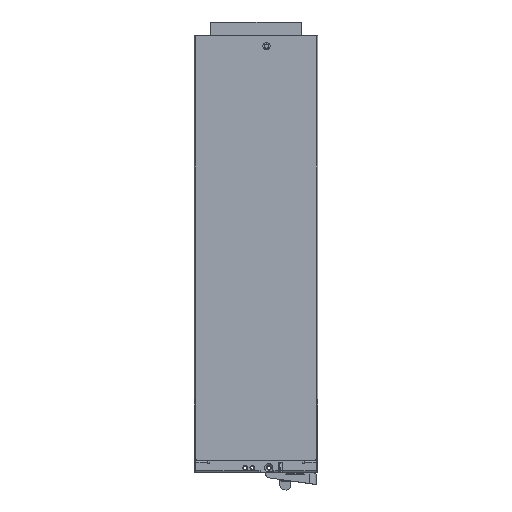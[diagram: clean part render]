
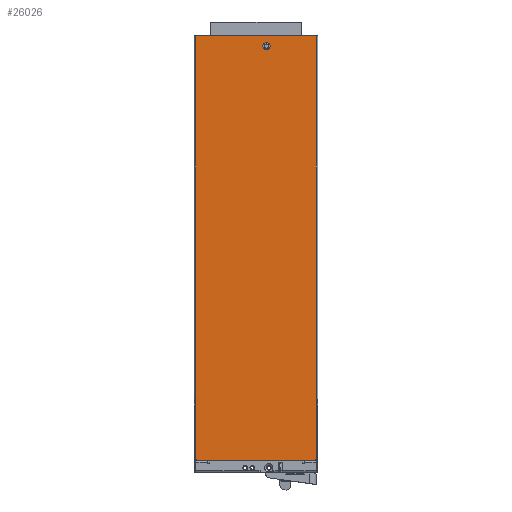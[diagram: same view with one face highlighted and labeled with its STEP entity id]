
A CAD part, top view. The second image highlights one B-rep face of the part: STEP entity #26026.
In plain terms, the highlighted planar face has unit normal (0, 0, 1).
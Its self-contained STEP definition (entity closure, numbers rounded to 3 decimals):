
#10978=DIRECTION('',(0.,-1.,0.));
#10979=VECTOR('',#10978,249.8);
#10980=CARTESIAN_POINT('',(108.187,347.252,41.8));
#10981=LINE('',#10980,#10979);
#10982=DIRECTION('',(0.,-1.,0.));
#10983=VECTOR('',#10982,41.1);
#10984=CARTESIAN_POINT('',(25.437,97.452,41.8));
#10985=LINE('',#10984,#10983);
#10986=DIRECTION('',(1.,0.,0.));
#10987=VECTOR('',#10986,0.05);
#10988=CARTESIAN_POINT('',(25.387,97.452,41.8));
#10989=LINE('',#10988,#10987);
#10990=DIRECTION('',(-1.,0.,0.));
#10991=VECTOR('',#10990,82.8);
#10992=CARTESIAN_POINT('',(108.187,347.252,41.8));
#10993=LINE('',#10992,#10991);
#10994=DIRECTION('',(1.,0.,0.));
#10995=VECTOR('',#10994,0.05);
#10996=CARTESIAN_POINT('',(108.137,97.452,41.8));
#10997=LINE('',#10996,#10995);
#10998=DIRECTION('',(0.,1.,0.));
#10999=VECTOR('',#10998,41.1);
#11000=CARTESIAN_POINT('',(108.137,56.352,41.8));
#11001=LINE('',#11000,#10999);
#11002=CARTESIAN_POINT('',(107.137,56.352,41.8));
#11003=DIRECTION('',(0.,0.,1.));
#11004=DIRECTION('',(0.,-1.,0.));
#11005=AXIS2_PLACEMENT_3D('',#11002,#11003,#11004);
#11007=DIRECTION('',(1.,0.,0.));
#11008=VECTOR('',#11007,80.7);
#11009=CARTESIAN_POINT('',(26.437,55.352,41.8));
#11010=LINE('',#11009,#11008);
#11011=CARTESIAN_POINT('',(26.437,56.352,41.8));
#11012=DIRECTION('',(0.,0.,1.));
#11013=DIRECTION('',(-1.,0.,0.));
#11014=AXIS2_PLACEMENT_3D('',#11011,#11012,#11013);
#11016=CARTESIAN_POINT('',(74.037,340.189,41.8));
#11017=DIRECTION('',(0.,0.,-1.));
#11018=DIRECTION('',(-1.,0.,0.));
#11019=AXIS2_PLACEMENT_3D('',#11016,#11017,#11018);
#11021=CARTESIAN_POINT('',(74.037,340.189,41.8));
#11022=DIRECTION('',(0.,0.,-1.));
#11023=DIRECTION('',(1.,0.,0.));
#11024=AXIS2_PLACEMENT_3D('',#11021,#11022,#11023);
#11099=DIRECTION('',(0.,1.,0.));
#11100=VECTOR('',#11099,249.8);
#11101=CARTESIAN_POINT('',(25.387,97.452,41.8));
#11102=LINE('',#11101,#11100);
#24032=CARTESIAN_POINT('',(108.137,97.452,41.8));
#24033=VERTEX_POINT('',#24032);
#24034=CARTESIAN_POINT('',(108.137,56.352,41.8));
#24035=VERTEX_POINT('',#24034);
#24036=CARTESIAN_POINT('',(107.137,55.352,41.8));
#24037=VERTEX_POINT('',#24036);
#24038=CARTESIAN_POINT('',(26.437,55.352,41.8));
#24039=VERTEX_POINT('',#24038);
#24040=CARTESIAN_POINT('',(25.437,56.352,41.8));
#24041=VERTEX_POINT('',#24040);
#24042=CARTESIAN_POINT('',(25.437,97.452,41.8));
#24043=VERTEX_POINT('',#24042);
#24050=CARTESIAN_POINT('',(25.387,97.452,41.8));
#24051=VERTEX_POINT('',#24050);
#24068=CARTESIAN_POINT('',(25.387,347.252,41.8));
#24069=VERTEX_POINT('',#24068);
#24070=CARTESIAN_POINT('',(108.187,347.252,41.8));
#24071=VERTEX_POINT('',#24070);
#24082=CARTESIAN_POINT('',(108.187,97.452,41.8));
#24083=VERTEX_POINT('',#24082);
#24084=CARTESIAN_POINT('',(76.537,340.189,41.8));
#24085=VERTEX_POINT('',#24084);
#24086=CARTESIAN_POINT('',(71.537,340.189,41.8));
#24087=VERTEX_POINT('',#24086);
#25997=CARTESIAN_POINT('',(66.787,201.302,41.8));
#25998=DIRECTION('',(0.,0.,1.));
#25999=DIRECTION('',(1.,0.,0.));
#26000=AXIS2_PLACEMENT_3D('',#25997,#25998,#25999);
#26001=PLANE('',#26000);
#26003=ORIENTED_EDGE('',*,*,#26002,.F.);
#26005=ORIENTED_EDGE('',*,*,#26004,.F.);
#26007=ORIENTED_EDGE('',*,*,#26006,.T.);
#26008=ORIENTED_EDGE('',*,*,#25932,.F.);
#26009=ORIENTED_EDGE('',*,*,#25985,.T.);
#26010=ORIENTED_EDGE('',*,*,#25790,.F.);
#26011=ORIENTED_EDGE('',*,*,#25765,.F.);
#26013=ORIENTED_EDGE('',*,*,#26012,.F.);
#26015=ORIENTED_EDGE('',*,*,#26014,.F.);
#26017=ORIENTED_EDGE('',*,*,#26016,.F.);
#26018=EDGE_LOOP('',(#26003,#26005,#26007,#26008,#26009,#26010,#26011,#26013,
#26015,#26017));
#26019=FACE_OUTER_BOUND('',#26018,.F.);
#26021=ORIENTED_EDGE('',*,*,#26020,.F.);
#26023=ORIENTED_EDGE('',*,*,#26022,.F.);
#26024=EDGE_LOOP('',(#26021,#26023));
#26025=FACE_BOUND('',#26024,.F.);
#11006=CIRCLE('',#11005,1.);
#11015=CIRCLE('',#11014,1.);
#11020=CIRCLE('',#11019,2.5);
#11025=CIRCLE('',#11024,2.5);
#25765=EDGE_CURVE('',#24035,#24033,#11001,.T.);
#25790=EDGE_CURVE('',#24033,#24083,#10997,.T.);
#25932=EDGE_CURVE('',#24071,#24069,#10993,.T.);
#25985=EDGE_CURVE('',#24071,#24083,#10981,.T.);
#26002=EDGE_CURVE('',#24043,#24041,#10985,.T.);
#26004=EDGE_CURVE('',#24051,#24043,#10989,.T.);
#26006=EDGE_CURVE('',#24051,#24069,#11102,.T.);
#26012=EDGE_CURVE('',#24037,#24035,#11006,.T.);
#26014=EDGE_CURVE('',#24039,#24037,#11010,.T.);
#26016=EDGE_CURVE('',#24041,#24039,#11015,.T.);
#26020=EDGE_CURVE('',#24087,#24085,#11020,.T.);
#26022=EDGE_CURVE('',#24085,#24087,#11025,.T.);
#26026=ADVANCED_FACE('',(#26019,#26025),#26001,.T.);
